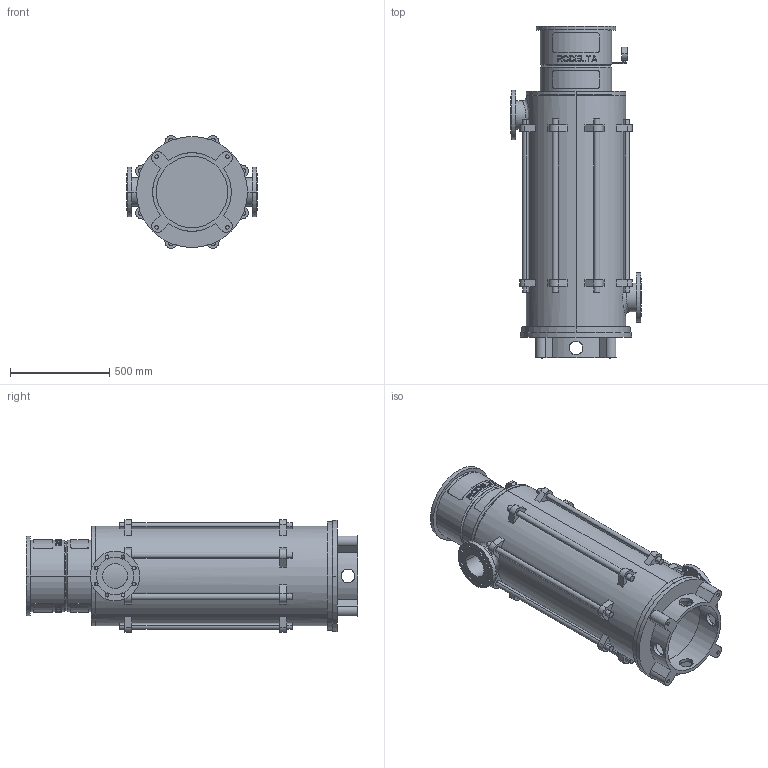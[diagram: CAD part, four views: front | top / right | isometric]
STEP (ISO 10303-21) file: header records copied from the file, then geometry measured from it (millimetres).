
FILE_DESCRIPTION((''),'2;1');
FILE_NAME('LS5_7TR_0GR_TOT_30KW','2023-08-08T',('Lyritlocal'),(''),'PRO/ENGINEER BY PARAMETRIC TECHNOLOGY CORPORATION, 2016360','PRO/ENGINEER BY PARAMETRIC TECHNOLOGY CORPORATION, 2016360','');
FILE_SCHEMA(('CONFIG_CONTROL_DESIGN'));
Length unit declared in the file: millimetre
Products named in the file (1): LS5_7TR_0GR_TOT_30KW
Bounding box: 660 x 1674 x 568.08 mm (x, y, z)
Volume: 45350470.9 mm3; surface area: 6810564.1 mm2
Topology: 3 solids, 7 shells, 672 faces, 1747 edges, 1158 vertices
Faces by surface type: plane 414, cylinder 242, cone 12, bspline 4
Entity records: 21892 total; most frequent: CARTESIAN_POINT 5448, ORIENTED_EDGE 3478, DIRECTION 3269, EDGE_CURVE 1747, AXIS2_PLACEMENT_3D 1241, VERTEX_POINT 1158, EDGE_LOOP 809, VECTOR 787
